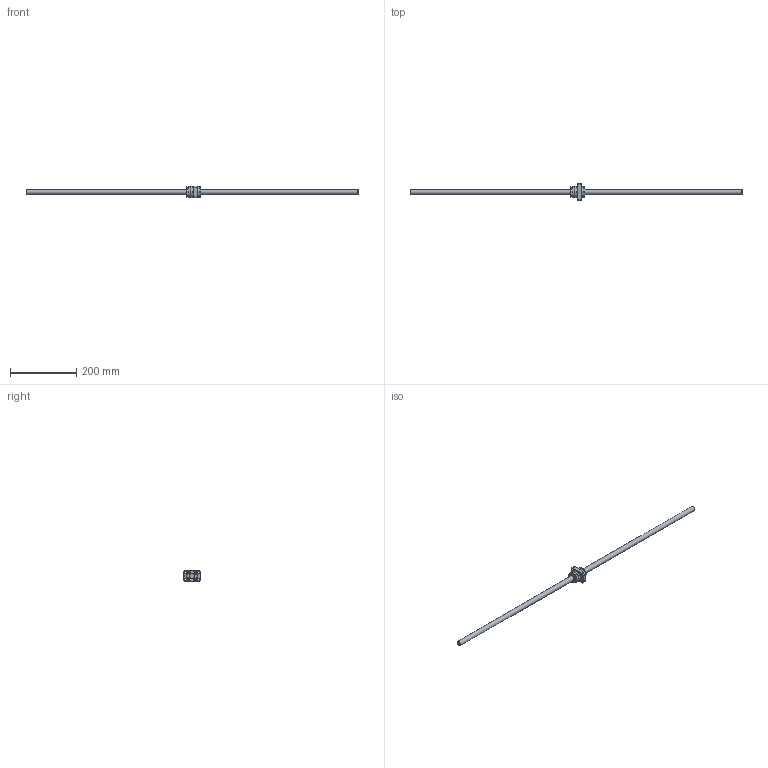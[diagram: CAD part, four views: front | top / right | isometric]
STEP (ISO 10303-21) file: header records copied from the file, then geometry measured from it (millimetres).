
FILE_DESCRIPTION( ( 'STEP AP214' ), ' ' );
FILE_NAME( 'p:/temp/worker_4/1548_2664/app_68_12015091122012469228883260eae72_000000_00_00_000000/format_0/SR1510-1000R1000C7(484).stp', '2015-09-11T20:01:25', ( '' ), ( '' ), ' ', 'PARTsolutions', ' ' );
FILE_SCHEMA( ( 'AUTOMOTIVE_DESIGN { 1 0 10303 214 1 1 1 1 }' ) );
Length unit declared in the file: millimetre
Products named in the file (3): SR1510-1000R1000C7(484); _SR1510(484)_shaft; _SR1510C7_nut
Assembly tree (2 placements, depth 2):
  SR1510-1000R1000C7(484)
    _SR1510(484)_shaft
    _SR1510C7_nut
Bounding box: 1000 x 50 x 34 mm (x, y, z)
Volume: 211633 mm3; surface area: 58835.1 mm2
Topology: 2 solids, 2 shells, 97 faces, 219 edges, 144 vertices
Faces by surface type: plane 62, cylinder 30, cone 5
Full cylindrical faces by diameter (mm): 2 x1, 4.917 x1, 5.5 x8, 9.5 x4, 15 x2, 31.5 x2, 32 x2, 33 x1, 34 x1
Entity records: 3456 total; most frequent: CARTESIAN_POINT 467, DIRECTION 460, ORIENTED_EDGE 382, EDGE_CURVE 191, AXIS2_PLACEMENT_3D 170, EDGE_LOOP 154, VERTEX_POINT 143, LINE 120
